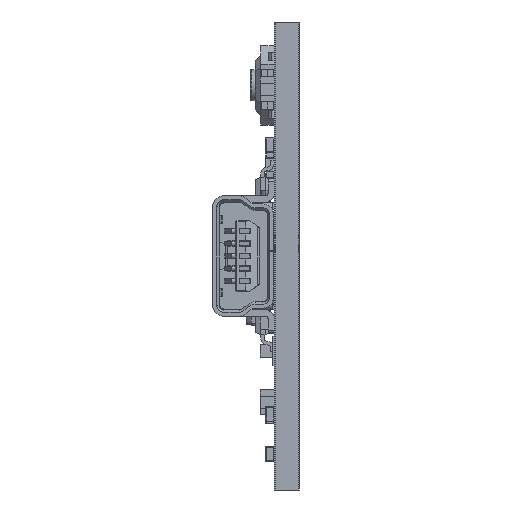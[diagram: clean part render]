
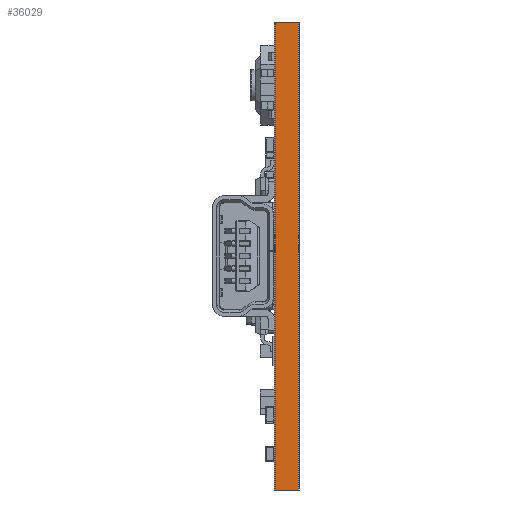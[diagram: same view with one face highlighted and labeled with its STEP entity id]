
A CAD part, left-side view. The second image highlights one B-rep face of the part: STEP entity #36029.
In plain terms, the highlighted planar face has unit normal (-1, 0, 0).
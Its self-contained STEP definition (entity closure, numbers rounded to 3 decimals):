
#1641=PLANE('',#38317);
#2954=FACE_OUTER_BOUND('',#4928,.T.);
#4928=EDGE_LOOP('',(#25034,#25035,#25036,#25037));
#7257=LINE('',#52365,#11091);
#7265=LINE('',#52380,#11099);
#7266=LINE('',#52382,#11100);
#7267=LINE('',#52383,#11101);
#11091=VECTOR('',#41852,10.);
#11099=VECTOR('',#41864,10.);
#11100=VECTOR('',#41867,10.);
#11101=VECTOR('',#41868,10.);
#16266=VERTEX_POINT('',#52362);
#16267=VERTEX_POINT('',#52364);
#16271=VERTEX_POINT('',#52376);
#16272=VERTEX_POINT('',#52378);
#19743=EDGE_CURVE('',#16266,#16267,#7257,.T.);
#19751=EDGE_CURVE('',#16271,#16272,#7265,.T.);
#19752=EDGE_CURVE('',#16266,#16271,#7266,.T.);
#19753=EDGE_CURVE('',#16267,#16272,#7267,.T.);
#25034=ORIENTED_EDGE('',*,*,#19752,.T.);
#25035=ORIENTED_EDGE('',*,*,#19751,.T.);
#25036=ORIENTED_EDGE('',*,*,#19753,.F.);
#25037=ORIENTED_EDGE('',*,*,#19743,.F.);
#36029=ADVANCED_FACE('',(#2954),#1641,.T.);
#38317=AXIS2_PLACEMENT_3D('',#52381,#41865,#41866);
#41852=DIRECTION('',(0.,0.,1.));
#41864=DIRECTION('',(0.,0.,1.));
#41865=DIRECTION('center_axis',(-1.,0.,0.));
#41866=DIRECTION('ref_axis',(0.,-1.,0.));
#41867=DIRECTION('',(0.,-1.,0.));
#41868=DIRECTION('',(0.,-1.,0.));
#52362=CARTESIAN_POINT('',(0.,30.,0.));
#52364=CARTESIAN_POINT('',(0.,30.,1.5));
#52365=CARTESIAN_POINT('',(0.,30.,0.));
#52376=CARTESIAN_POINT('',(0.,0.,0.));
#52378=CARTESIAN_POINT('',(0.,0.,1.5));
#52380=CARTESIAN_POINT('',(0.,0.,0.));
#52381=CARTESIAN_POINT('Origin',(0.,30.,0.));
#52382=CARTESIAN_POINT('',(0.,30.,0.));
#52383=CARTESIAN_POINT('',(0.,30.,1.5));
